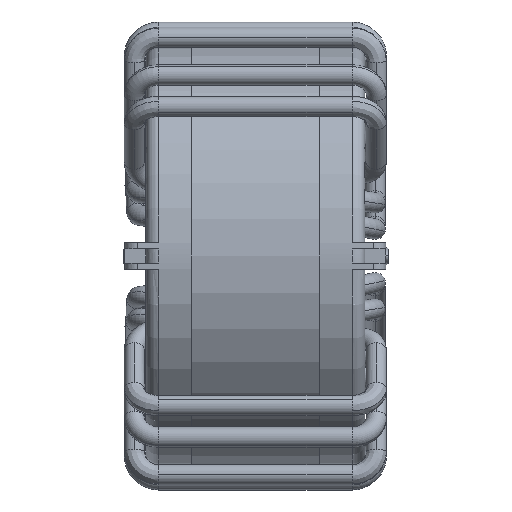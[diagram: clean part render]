
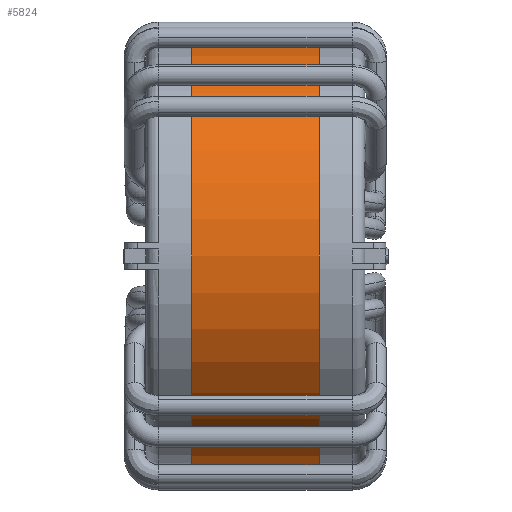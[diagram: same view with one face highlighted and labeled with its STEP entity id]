
A CAD part, left-side view. The second image highlights one B-rep face of the part: STEP entity #5824.
In plain terms, the highlighted cylindrical face has radius 16.68 mm (diameter 33.36 mm), a partial arc.
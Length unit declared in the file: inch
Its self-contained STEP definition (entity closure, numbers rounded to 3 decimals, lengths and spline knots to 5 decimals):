
#34 = CARTESIAN_POINT ( 'NONE',  ( 0., 0.19685, 0.65669 ) ) ;
#284 = EDGE_CURVE ( 'NONE', #11856, #15082, #2651, .T. ) ;
#1712 = DIRECTION ( 'NONE',  ( 0., -1., 0. ) ) ;
#1911 = EDGE_CURVE ( 'NONE', #3816, #17264, #2768, .T. ) ;
#2118 = ORIENTED_EDGE ( 'NONE', *, *, #6554, .F. ) ;
#2325 = CIRCLE ( 'NONE', #14788, 0.65669 ) ;
#2651 = LINE ( 'NONE', #21377, #7737 ) ;
#2768 = LINE ( 'NONE', #16975, #6592 ) ;
#3647 = DIRECTION ( 'NONE',  ( 0., 0., 1. ) ) ;
#3816 = VERTEX_POINT ( 'NONE', #34 ) ;
#4467 = DIRECTION ( 'NONE',  ( 0., 0., -1. ) ) ;
#5181 = CARTESIAN_POINT ( 'NONE',  ( 0., -0.19685, 0. ) ) ;
#5365 = CIRCLE ( 'NONE', #8001, 0.65669 ) ;
#5824 = ADVANCED_FACE ( 'NONE', ( #13485 ), #20432, .T. ) ;
#6003 = ORIENTED_EDGE ( 'NONE', *, *, #1911, .F. ) ;
#6554 = EDGE_CURVE ( 'NONE', #11856, #3816, #5365, .T. ) ;
#6592 = VECTOR ( 'NONE', #7594, 39.37008 ) ;
#7594 = DIRECTION ( 'NONE',  ( 0., -1., 0. ) ) ;
#7737 = VECTOR ( 'NONE', #8174, 39.37008 ) ;
#8001 = AXIS2_PLACEMENT_3D ( 'NONE', #9187, #17869, #3647 ) ;
#8174 = DIRECTION ( 'NONE',  ( 0., -1., 0. ) ) ;
#9187 = CARTESIAN_POINT ( 'NONE',  ( 0., 0.19685, 0. ) ) ;
#9681 = CARTESIAN_POINT ( 'NONE',  ( 0., -0.19685, 0.65669 ) ) ;
#11856 = VERTEX_POINT ( 'NONE', #12875 ) ;
#12875 = CARTESIAN_POINT ( 'NONE',  ( 0., 0.19685, -0.65669 ) ) ;
#13485 = FACE_OUTER_BOUND ( 'NONE', #20055, .T. ) ;
#13520 = DIRECTION ( 'NONE',  ( 0., 0., 1. ) ) ;
#14788 = AXIS2_PLACEMENT_3D ( 'NONE', #5181, #17334, #13520 ) ;
#14887 = AXIS2_PLACEMENT_3D ( 'NONE', #16615, #1712, #4467 ) ;
#15082 = VERTEX_POINT ( 'NONE', #18610 ) ;
#15405 = ORIENTED_EDGE ( 'NONE', *, *, #284, .T. ) ;
#15747 = EDGE_CURVE ( 'NONE', #15082, #17264, #2325, .T. ) ;
#16615 = CARTESIAN_POINT ( 'NONE',  ( 0., 0.19685, 0. ) ) ;
#16975 = CARTESIAN_POINT ( 'NONE',  ( 0., 0.19685, 0.65669 ) ) ;
#17264 = VERTEX_POINT ( 'NONE', #9681 ) ;
#17334 = DIRECTION ( 'NONE',  ( 0., 1., 0. ) ) ;
#17869 = DIRECTION ( 'NONE',  ( 0., 1., 0. ) ) ;
#18610 = CARTESIAN_POINT ( 'NONE',  ( 0., -0.19685, -0.65669 ) ) ;
#18774 = ORIENTED_EDGE ( 'NONE', *, *, #15747, .T. ) ;
#20055 = EDGE_LOOP ( 'NONE', ( #6003, #2118, #15405, #18774 ) ) ;
#20432 = CYLINDRICAL_SURFACE ( 'NONE', #14887, 0.65669 ) ;
#21377 = CARTESIAN_POINT ( 'NONE',  ( 0., 0.19685, -0.65669 ) ) ;
